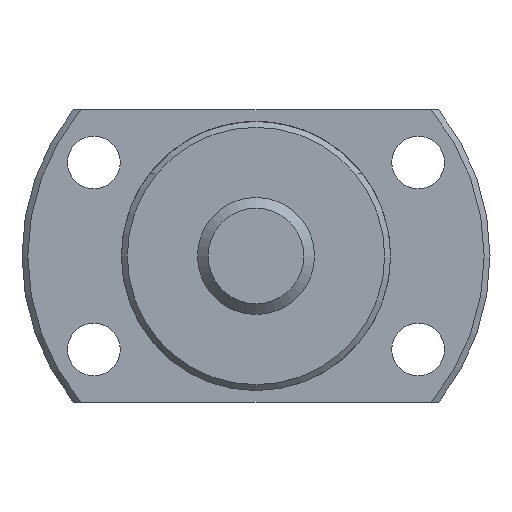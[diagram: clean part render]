
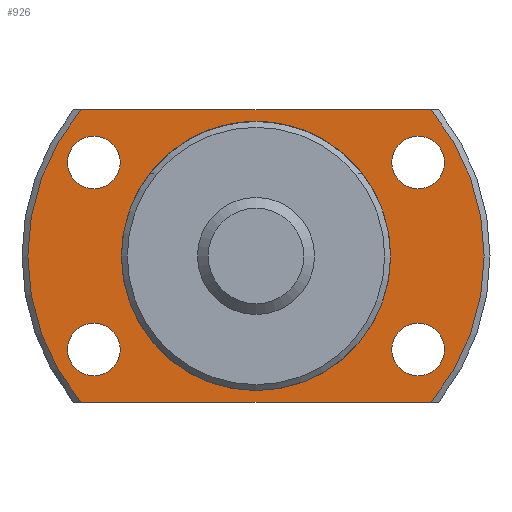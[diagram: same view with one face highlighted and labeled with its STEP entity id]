
A CAD part, left-side view. The second image highlights one B-rep face of the part: STEP entity #926.
In plain terms, the highlighted planar face has unit normal (-1, 0, 0).
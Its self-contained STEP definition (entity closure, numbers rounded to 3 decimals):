
#103=LINE('',#1617,#145);
#104=LINE('',#1621,#146);
#145=VECTOR('',#1286,1000.);
#146=VECTOR('',#1289,1000.);
#270=ORIENTED_EDGE('',*,*,#473,.T.);
#271=ORIENTED_EDGE('',*,*,#474,.T.);
#272=ORIENTED_EDGE('',*,*,#475,.T.);
#273=ORIENTED_EDGE('',*,*,#476,.T.);
#274=ORIENTED_EDGE('',*,*,#462,.F.);
#275=ORIENTED_EDGE('',*,*,#477,.F.);
#276=ORIENTED_EDGE('',*,*,#478,.F.);
#277=ORIENTED_EDGE('',*,*,#479,.F.);
#278=ORIENTED_EDGE('',*,*,#456,.T.);
#456=EDGE_CURVE('',#566,#566,#636,.T.);
#462=EDGE_CURVE('',#571,#572,#639,.T.);
#473=EDGE_CURVE('',#581,#581,#645,.T.);
#474=EDGE_CURVE('',#582,#582,#646,.T.);
#475=EDGE_CURVE('',#583,#583,#647,.T.);
#476=EDGE_CURVE('',#584,#584,#648,.T.);
#477=EDGE_CURVE('',#585,#571,#103,.T.);
#478=EDGE_CURVE('',#586,#585,#649,.T.);
#479=EDGE_CURVE('',#572,#586,#104,.T.);
#566=VERTEX_POINT('',#1560);
#571=VERTEX_POINT('',#1574);
#572=VERTEX_POINT('',#1576);
#581=VERTEX_POINT('',#1610);
#582=VERTEX_POINT('',#1612);
#583=VERTEX_POINT('',#1614);
#584=VERTEX_POINT('',#1616);
#585=VERTEX_POINT('',#1618);
#586=VERTEX_POINT('',#1620);
#636=CIRCLE('',#1041,11.25);
#639=CIRCLE('',#1045,19.5);
#645=CIRCLE('',#1056,2.25);
#646=CIRCLE('',#1057,2.25);
#647=CIRCLE('',#1058,2.25);
#648=CIRCLE('',#1059,2.25);
#649=CIRCLE('',#1060,19.5);
#713=EDGE_LOOP('',(#270));
#714=EDGE_LOOP('',(#271));
#715=EDGE_LOOP('',(#272));
#716=EDGE_LOOP('',(#273));
#717=EDGE_LOOP('',(#274,#275,#276,#277));
#718=EDGE_LOOP('',(#278));
#813=FACE_BOUND('',#713,.T.);
#814=FACE_BOUND('',#714,.T.);
#815=FACE_BOUND('',#715,.T.);
#816=FACE_BOUND('',#716,.T.);
#817=FACE_BOUND('',#717,.T.);
#818=FACE_BOUND('',#718,.T.);
#877=PLANE('',#1055);
#926=ADVANCED_FACE('',(#813,#814,#815,#816,#817,#818),#877,.F.);
#1041=AXIS2_PLACEMENT_3D('',#1559,#1244,#1245);
#1045=AXIS2_PLACEMENT_3D('',#1575,#1254,#1255);
#1055=AXIS2_PLACEMENT_3D('',#1608,#1276,#1277);
#1056=AXIS2_PLACEMENT_3D('',#1609,#1278,#1279);
#1057=AXIS2_PLACEMENT_3D('',#1611,#1280,#1281);
#1058=AXIS2_PLACEMENT_3D('',#1613,#1282,#1283);
#1059=AXIS2_PLACEMENT_3D('',#1615,#1284,#1285);
#1060=AXIS2_PLACEMENT_3D('',#1619,#1287,#1288);
#1244=DIRECTION('',(1.,0.,0.));
#1245=DIRECTION('',(0.,0.,-1.));
#1254=DIRECTION('',(1.,0.,0.));
#1255=DIRECTION('',(0.,0.,-1.));
#1276=DIRECTION('',(1.,0.,0.));
#1277=DIRECTION('',(0.,0.,-1.));
#1278=DIRECTION('',(1.,0.,0.));
#1279=DIRECTION('',(0.,0.,-1.));
#1280=DIRECTION('',(1.,0.,0.));
#1281=DIRECTION('',(0.,0.,-1.));
#1282=DIRECTION('',(1.,0.,0.));
#1283=DIRECTION('',(0.,0.,-1.));
#1284=DIRECTION('',(1.,0.,0.));
#1285=DIRECTION('',(0.,0.,-1.));
#1286=DIRECTION('',(0.,1.,0.));
#1287=DIRECTION('',(1.,0.,0.));
#1288=DIRECTION('',(0.,0.,-1.));
#1289=DIRECTION('',(0.,-1.,0.));
#1559=CARTESIAN_POINT('',(19.,0.,0.));
#1560=CARTESIAN_POINT('',(19.,0.,-11.25));
#1574=CARTESIAN_POINT('',(19.,14.967,-12.5));
#1575=CARTESIAN_POINT('',(19.,0.,0.));
#1576=CARTESIAN_POINT('',(19.,14.967,12.5));
#1608=CARTESIAN_POINT('',(19.,11.25,0.));
#1609=CARTESIAN_POINT('',(19.,-13.856,-8.));
#1610=CARTESIAN_POINT('',(19.,-13.856,-10.25));
#1611=CARTESIAN_POINT('',(19.,-13.856,8.));
#1612=CARTESIAN_POINT('',(19.,-13.856,5.75));
#1613=CARTESIAN_POINT('',(19.,13.856,-8.));
#1614=CARTESIAN_POINT('',(19.,13.856,-10.25));
#1615=CARTESIAN_POINT('',(19.,13.856,8.));
#1616=CARTESIAN_POINT('',(19.,13.856,5.75));
#1617=CARTESIAN_POINT('',(19.,-25.,-12.5));
#1618=CARTESIAN_POINT('',(19.,-14.967,-12.5));
#1619=CARTESIAN_POINT('',(19.,0.,0.));
#1620=CARTESIAN_POINT('',(19.,-14.967,12.5));
#1621=CARTESIAN_POINT('',(19.,25.,12.5));
